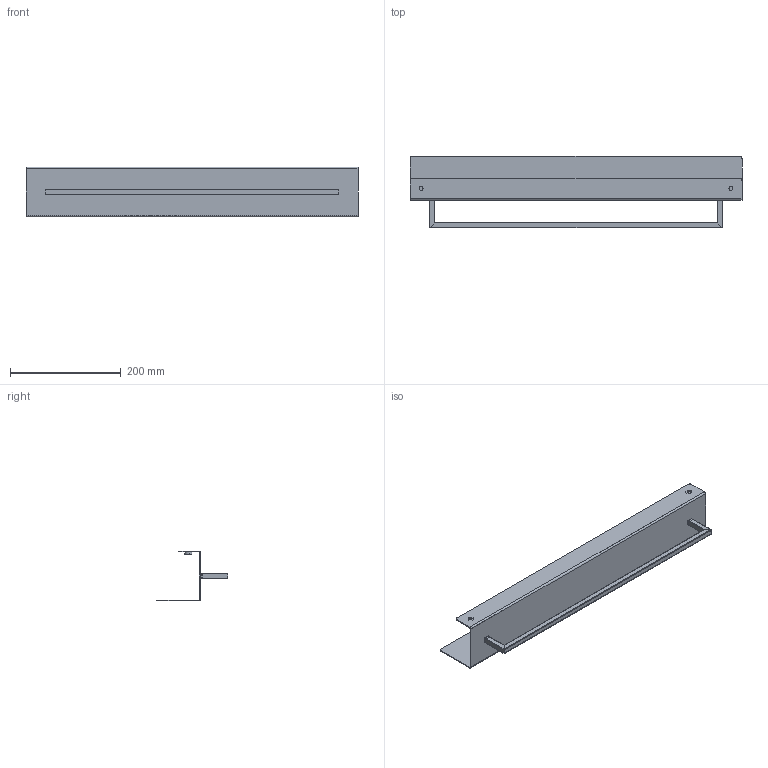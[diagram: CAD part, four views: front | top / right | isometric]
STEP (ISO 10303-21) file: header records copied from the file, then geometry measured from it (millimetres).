
FILE_DESCRIPTION (( 'STEP AP214' ), '1' );
FILE_NAME ('01-002-0600-W-00-00.STEP', '2024-06-03T11:27:18', ( '' ), ( '' ), 'SwSTEP 2.0', 'SolidWorks 2021', '' );
FILE_SCHEMA (( 'AUTOMOTIVE_DESIGN' ));
Length unit declared in the file: millimetre
Products named in the file (8): zaœlepka œruby 13mm; 01-002-0600-W-00-00; Nakrêtka klatkowa M5; 01-002-0400-W-01-02; 01-002-0600-W-01-00; countersunk flat head cross recess screw_din_DIN EN ISO 7046-1 - M5 x 6 - Z - 6N; 01-002-0600-W-01-03; 01-002-0600-W-00-01
Assembly tree (11 placements, depth 3):
  01-002-0600-W-00-00
    01-002-0600-W-00-01
    01-002-0600-W-01-00
      01-002-0400-W-01-02  x2
      01-002-0600-W-01-03
      Nakrêtka klatkowa M5  x2
    countersunk flat head cross recess screw_din_DIN EN ISO 7046-1 - M5 x 6 - Z - 6N  x2
    zaœlepka œruby 13mm  x2
Bounding box: 600 x 130 x 90 mm (x, y, z)
Volume: 207709.4 mm3; surface area: 293370.3 mm2
Topology: 10 solids, 10 shells, 212 faces, 502 edges, 306 vertices
Faces by surface type: plane 110, cylinder 70, cone 16, bspline 8, torus 8
Entity records: 4889 total; most frequent: CARTESIAN_POINT 1641, DIRECTION 615, ORIENTED_EDGE 614, EDGE_CURVE 307, AXIS2_PLACEMENT_3D 217, VERTEX_POINT 189, LINE 181, VECTOR 181
